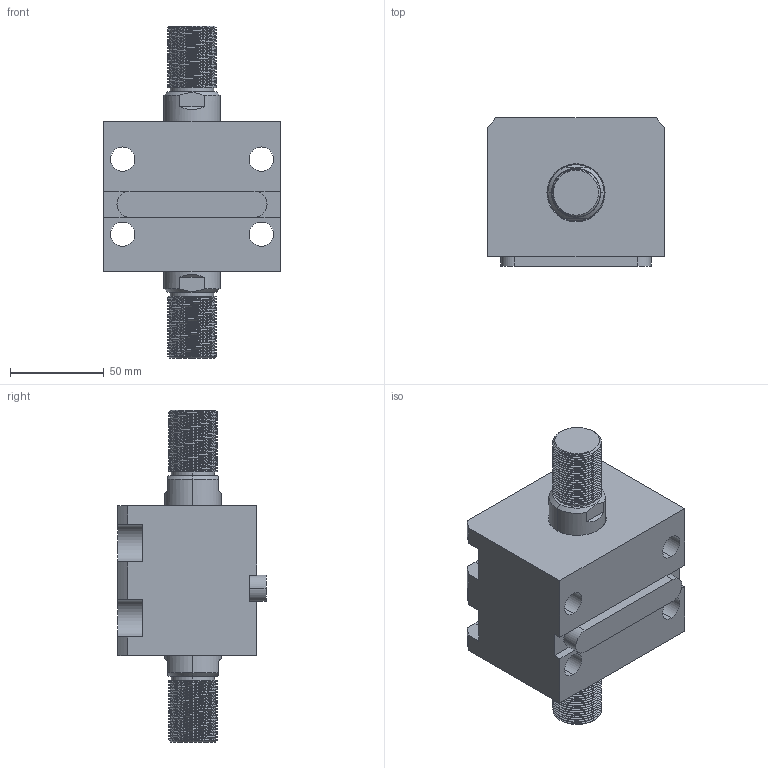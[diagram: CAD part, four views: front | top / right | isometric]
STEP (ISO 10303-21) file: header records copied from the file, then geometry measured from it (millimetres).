
FILE_DESCRIPTION (( 'STEP AP203' ), '1' );
FILE_NAME ('CHTB-LW50-5W.STEP', '2018-05-18T02:17:25', ( '' ), ( '' ), 'SwSTEP 2.0', 'SolidWorks 2015', '' );
FILE_SCHEMA (( 'CONFIG_CONTROL_DESIGN' ));
Length unit declared in the file: millimetre
Products named in the file (4): CHTM-SDMA50QG; CHTB-LW50-5W; 活塞杆LW50-5W; 掛极LW50-5W
Assembly tree (3 placements, depth 2):
  CHTB-LW50-5W
    掛极LW50-5W
    活塞杆LW50-5W
    CHTM-SDMA50QG
Bounding box: 94 x 79 x 177 mm (x, y, z)
Volume: 549501.7 mm3; surface area: 103434.1 mm2
Topology: 3 solids, 3 shells, 311 faces, 855 edges, 568 vertices
Faces by surface type: cylinder 186, plane 64, cone 27, bspline 18, torus 16
Entity records: 19441 total; most frequent: CARTESIAN_POINT 11851, ORIENTED_EDGE 1702, DIRECTION 1316, EDGE_CURVE 851, VERTEX_POINT 568, AXIS2_PLACEMENT_3D 504, EDGE_LOOP 349, ADVANCED_FACE 311
